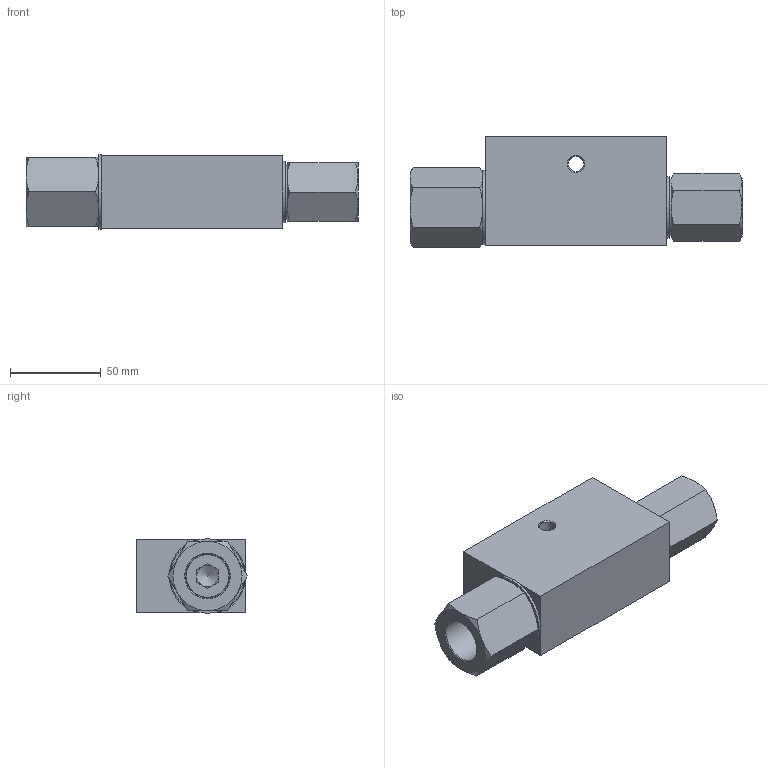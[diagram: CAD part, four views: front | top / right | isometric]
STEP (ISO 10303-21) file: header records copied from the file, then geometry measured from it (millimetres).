
FILE_DESCRIPTION(/* description */ (''),/* implementation_level */ '2;1');
FILE_NAME(/* name */ 'C:\Users\fabio.radici.LUEN\Desktop\003-029-AJ0-A_Shrinkwrap.stp',/* time_stamp */ '2020-10-09T14:16:25+02:00',/* author */ ('Fabio.Radici'),/* organization */ (''),/* preprocessor_version */ 'ST-DEVELOPER v18',/* originating_system */ 'Autodesk Inventor 2020',/* authorisation */ '');
FILE_SCHEMA (('AUTOMOTIVE_DESIGN { 1 0 10303 214 3 1 1 }'));
Length unit declared in the file: millimetre
Products named in the file (1): 003-029-AJ0-A_Shrinkwrap
Bounding box: 182.6 x 60.94 x 41 mm (x, y, z)
Surface area: 52723.1 mm2 (no closed solid volume)
Topology: 0 solids, 12 shells, 95 faces, 260 edges, 172 vertices
Faces by surface type: cone 40, plane 32, cylinder 22, torus 1
Full cylindrical faces by diameter (mm): 8.5 x1, 9 x1, 12 x4, 22 x1, 24.117 x4, 30.291 x1, 31.3 x1, 33.249 x1, 34 x1, 36 x3, 41 x1
Entity records: 3464 total; most frequent: CARTESIAN_POINT 933, DIRECTION 509, ORIENTED_EDGE 458, EDGE_CURVE 258, AXIS2_PLACEMENT_3D 216, VERTEX_POINT 172, CIRCLE 118, EDGE_LOOP 114
